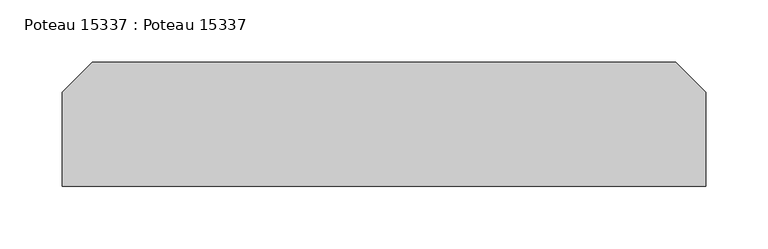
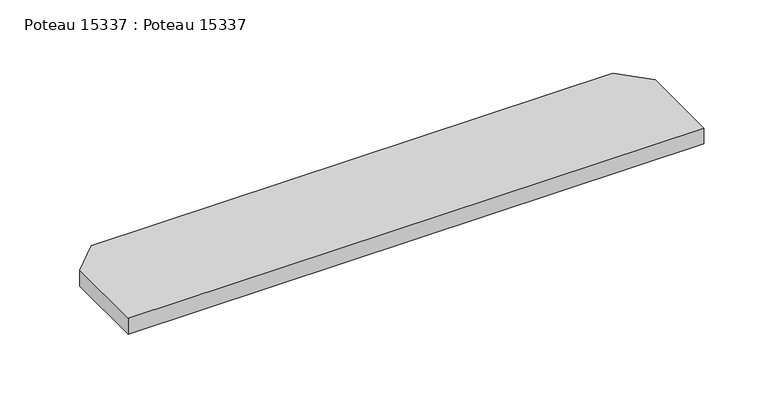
"""IFC4 building model written with IfcOpenShell, lengths in millimetres: beam geometry, Poteau 15337 : Poteau 15337."""

import ifcopenshell
import ifcopenshell.guid

model = None  # the IFC model being written
_history = None  # IfcOwnerHistory: only IFC2X3 demands one
_inside = {}  # id of a spatial element -> (the spatial element, [elements in it])
_under = {}  # id of a project, library or spatial element -> (it, [spatial elements below it])
_declared = {}  # id of a project -> (the project, [libraries it declares])
_typed = {}  # id of a type object -> (the type object, [elements of that type])
_made_of = {}  # id of a material, layer set ... -> (it, [elements and type objects made of it])


def new_model(schema):
    """Start an empty IFC model of exactly this schema.

    Asked for "IFC4X3", IfcOpenShell would pick the latest addendum, in which some entities
    have other attributes; the version numbers below select the first issue.
    IFC2X3 requires an IfcOwnerHistory on every rooted entity: one is made here for all.
    """
    global model, _history
    if schema == "IFC4X3":
        model = ifcopenshell.file(schema_version=(4, 3, 0, 0))
    else:
        model = ifcopenshell.file(schema=schema)
    _inside.clear()
    _under.clear()
    _declared.clear()
    _typed.clear()
    _made_of.clear()
    _history = None
    if model.schema == "IFC2X3":
        org = make("IfcOrganization", Name="unknown")
        user = make(
            "IfcPersonAndOrganization",
            ThePerson=make("IfcPerson", FamilyName="unknown"),
            TheOrganization=org,
        )
        app = make(
            "IfcApplication",
            ApplicationDeveloper=org,
            Version="unknown",
            ApplicationFullName="unknown",
            ApplicationIdentifier="unknown",
        )
        _history = make(
            "IfcOwnerHistory",
            OwningUser=user,
            OwningApplication=app,
            ChangeAction="ADDED",
            CreationDate=0,
        )
    return model


def make(cls, **values):
    """One entity of the class cls with the attributes given. An attribute that is None is left unset."""
    return model.create_entity(
        cls, **{name: value for name, value in values.items() if value is not None}
    )


def rooted(cls, **values):
    """An entity with a GlobalId (a new one), such as an element, a storey or a relation."""
    return make(cls, GlobalId=ifcopenshell.guid.new(), OwnerHistory=_history, **values)


def si_unit(unit_type, name, prefix=None):
    """IfcSIUnit, for example si_unit("LENGTHUNIT", "METRE", prefix="MILLI")."""
    return make("IfcSIUnit", UnitType=unit_type, Prefix=prefix, Name=name)


def assignment(units):
    """IfcUnitAssignment: the units of a project."""
    return None if units is None else make("IfcUnitAssignment", Units=units)


def point(xyz):
    """IfcCartesianPoint."""
    return None if xyz is None else make("IfcCartesianPoint", Coordinates=xyz)


def direction(xyz):
    """IfcDirection."""
    return None if xyz is None else make("IfcDirection", DirectionRatios=xyz)


def frame(location, z_axis=None, x_axis=None):
    """IfcAxis2Placement3D, a coordinate frame: its origin and axes. An axis left out is left unset."""
    return make(
        "IfcAxis2Placement3D",
        Location=point(location),
        Axis=direction(z_axis),
        RefDirection=direction(x_axis),
    )


def origin():
    """The frame at (0, 0, 0) with its axes left unset."""
    return frame((0.0, 0.0, 0.0))


def place(relative_to, where):
    """IfcLocalPlacement: puts the frame where relative to a parent placement (None: the world)."""
    return make(
        "IfcLocalPlacement", PlacementRelTo=relative_to, RelativePlacement=where
    )


def context(
    kind, dimensions, precision=None, world=None, true_north=None, identifier=None
):
    """IfcGeometricRepresentationContext, for example the 3D "Model" context."""
    return make(
        "IfcGeometricRepresentationContext",
        ContextIdentifier=identifier,
        ContextType=kind,
        CoordinateSpaceDimension=dimensions,
        Precision=precision,
        WorldCoordinateSystem=world,
        TrueNorth=true_north,
    )


def project(units=None, contexts=None):
    """IfcProject with its units and contexts."""
    return rooted(
        "IfcProject",
        Name="project",
        RepresentationContexts=contexts,
        UnitsInContext=assignment(units),
    )


def spatial(cls, under=None, at=None, **own):
    """A site, building, storey or space (cls), placed at a placement, below another one or the project."""
    s = rooted(cls, ObjectPlacement=at, **own)
    if under is not None:
        _under.setdefault(under.id(), (under, []))[1].append(s)
    return s


def polyline(points):
    """IfcPolyline through the points."""
    return make("IfcPolyline", Points=[point(p) for p in points])


def outline(outer, holes=None, kind="AREA"):
    """IfcArbitraryClosedProfileDef: a profile drawn as a closed curve; with holes, ...WithVoids."""
    if holes is None:
        return make("IfcArbitraryClosedProfileDef", ProfileType=kind, OuterCurve=outer)
    return make(
        "IfcArbitraryProfileDefWithVoids",
        ProfileType=kind,
        OuterCurve=outer,
        InnerCurves=holes,
    )


def extrude(swept, where, along, depth):
    """IfcExtrudedAreaSolid: the profile swept, set in the frame where, extruded along a direction by depth."""
    return make(
        "IfcExtrudedAreaSolid",
        SweptArea=swept,
        Position=where,
        ExtrudedDirection=direction(along),
        Depth=depth,
    )


def shape(context_of_items, identifier, shape_type, items):
    """IfcShapeRepresentation: the items that make up one representation, for example the "Body"."""
    return make(
        "IfcShapeRepresentation",
        ContextOfItems=context_of_items,
        RepresentationIdentifier=identifier,
        RepresentationType=shape_type,
        Items=items,
    )


def source(mapping_origin, context_of_items, identifier, shape_type, items):
    """IfcRepresentationMap: a shape defined once, which mapped items show again and again."""
    return make(
        "IfcRepresentationMap",
        MappingOrigin=mapping_origin,
        MappedRepresentation=shape(context_of_items, identifier, shape_type, items),
    )


def transform(
    local_origin,
    x_axis=None,
    y_axis=None,
    z_axis=None,
    scale=None,
    scale2=None,
    scale3=None,
    uniform=True,
):
    """IfcCartesianTransformationOperator3D, or its non-uniform kind. x_axis, y_axis, z_axis: its Axis1, 2, 3."""
    if uniform:
        return make(
            "IfcCartesianTransformationOperator3D",
            Axis1=direction(x_axis),
            Axis2=direction(y_axis),
            LocalOrigin=point(local_origin),
            Scale=scale,
            Axis3=direction(z_axis),
        )
    return make(
        "IfcCartesianTransformationOperator3DnonUniform",
        Axis1=direction(x_axis),
        Axis2=direction(y_axis),
        LocalOrigin=point(local_origin),
        Scale=scale,
        Axis3=direction(z_axis),
        Scale2=scale2,
        Scale3=scale3,
    )


def mapped(mapping_source, mapping_target):
    """IfcMappedItem: shows the shape of a source again, moved by a transform."""
    return make(
        "IfcMappedItem", MappingSource=mapping_source, MappingTarget=mapping_target
    )


def made_of(thing, what):
    """Note that an element or type object is made of a material, layer set ...; save() writes the relation."""
    if what is not None:
        _made_of.setdefault(what.id(), (what, []))[1].append(thing)
    return thing


def element(
    cls,
    number,
    at=None,
    inside=None,
    cuts=None,
    type_object=None,
    material=None,
    context=None,
    identifier="Body",
    shape_type=None,
    held_by="IfcProductDefinitionShape",
    body=None,
    shapes=None,
    **own,
):
    """One element of the class cls, such as IfcWall. Its Tag is "e" and its number.

    at: its placement. inside: the storey or other place that contains it. cuts: it is an
    opening in that element (IfcRelVoidsElement). A single representation is given by context,
    identifier, shape_type and body (its items); several are given by shapes. held_by: the class
    of the entity that holds the representations. save() writes the other relations.
    """
    e = rooted(cls, Tag="e%d" % number, ObjectPlacement=at, **own)
    if body is not None:
        shapes = [shape(context, identifier, shape_type, body)]
    if shapes is not None:
        e.Representation = make(held_by, Representations=shapes)
    if inside is not None:
        _inside.setdefault(inside.id(), (inside, []))[1].append(e)
    if cuts is not None:
        rooted(
            "IfcRelVoidsElement", RelatingBuildingElement=cuts, RelatedOpeningElement=e
        )
    if type_object is not None:
        _typed.setdefault(type_object.id(), (type_object, []))[1].append(e)
    return made_of(e, material)


def aggregate(whole, parts):
    """IfcRelAggregates: a whole, such as a stair, and the parts it consists of."""
    return rooted("IfcRelAggregates", RelatingObject=whole, RelatedObjects=parts)


def save(model, path):
    """Write the relations noted so far, then the file.

    IfcRelAggregates (storeys below a building ...), IfcRelContainedInSpatialStructure (elements
    in a storey), IfcRelDefinesByType, IfcRelAssociatesMaterial and IfcRelDeclares: one each for
    every whole, place, type object, material and project.
    """
    for whole, parts in _under.values():
        aggregate(whole, parts)
    for where, things in _inside.values():
        rooted(
            "IfcRelContainedInSpatialStructure",
            RelatedElements=things,
            RelatingStructure=where,
        )
    for kind, things in _typed.values():
        rooted("IfcRelDefinesByType", RelatedObjects=things, RelatingType=kind)
    for what, things in _made_of.values():
        rooted("IfcRelAssociatesMaterial", RelatedObjects=things, RelatingMaterial=what)
    for by, libraries in _declared.values():
        rooted("IfcRelDeclares", RelatingContext=by, RelatedDefinitions=libraries)
    model.write(path)


def poteau_15337_poteau_15337_1c64e726(model_context):
    return source(origin(), model_context, "Body", "SweptSolid", [
        extrude(outline(polyline([(15372.7999999, -149.55), (15372.7999999, -225.0), (14857.1999999, -225.0), (14857.1999999, -149.55), (14881.1999999, -125.55), (15348.7999999, -125.55), (15372.7999999, -149.55)])), frame((0.0, 0.0, 6428.6958916), z_axis=(0.0, 0.0, 1.0), x_axis=(1.0, 0.0, 0.0)), (0.0, 0.0, 1.0), 15.0),
    ])


if __name__ == "__main__":
    model = new_model("IFC4")
    model_context = context("Model", 3, world=origin())
    ifc_project = project(units=[si_unit("LENGTHUNIT", "METRE", prefix="MILLI")], contexts=[model_context])
    site = spatial("IfcSite", under=ifc_project)
    building = spatial("IfcBuilding", under=site)
    placement = place(None, origin())
    poteau_15337_poteau_15337_shape = poteau_15337_poteau_15337_1c64e726(model_context)
    element("IfcBeam", 1, ObjectType="Poteau 15337 : Poteau 15337", at=placement, inside=building, context=model_context, shape_type="MappedRepresentation", body=[
        mapped(poteau_15337_poteau_15337_shape, transform((0.0, 0.0, 0.0), x_axis=(1.0, 0.0, 0.0), y_axis=(0.0, 1.0, 0.0), z_axis=(0.0, 0.0, 1.0))),
    ])
    save(model, "model.ifc")
